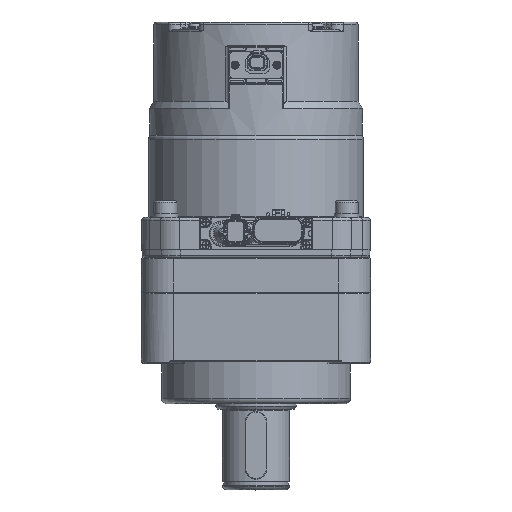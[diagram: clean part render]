
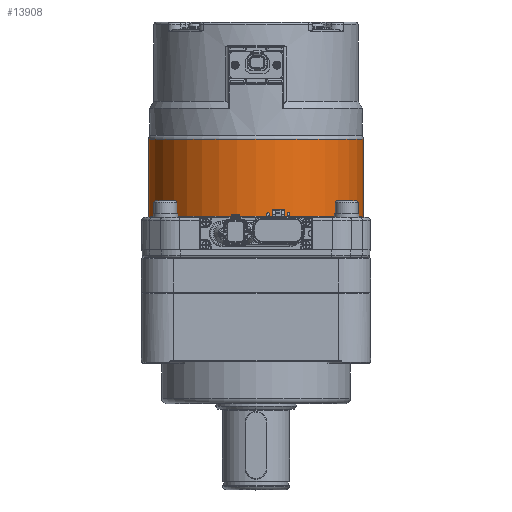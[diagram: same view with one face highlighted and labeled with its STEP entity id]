
A CAD part, top view. The second image highlights one B-rep face of the part: STEP entity #13908.
In plain terms, the highlighted cylindrical face has radius 39.9 mm (diameter 79.8 mm), a full revolution.
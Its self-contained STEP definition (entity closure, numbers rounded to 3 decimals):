
#12023=CYLINDRICAL_SURFACE('',#47709,39.9);
#13908=ADVANCED_FACE('',(#16251,#16252),#12023,.T.);
#16251=FACE_BOUND('',#17840,.T.);
#16252=FACE_BOUND('',#17841,.T.);
#17840=EDGE_LOOP('',(#25513));
#17841=EDGE_LOOP('',(#25514));
#19408=CIRCLE('',#46019,39.9);
#20242=CIRCLE('',#47690,39.9);
#25513=ORIENTED_EDGE('',*,*,#34545,.T.);
#25514=ORIENTED_EDGE('',*,*,#36516,.T.);
#31327=VERTEX_POINT('',#61064);
#32530=VERTEX_POINT('',#66459);
#34545=EDGE_CURVE('',#31327,#31327,#19408,.T.);
#36516=EDGE_CURVE('',#32530,#32530,#20242,.T.);
#46019=AXIS2_PLACEMENT_3D('',#61063,#50434,#50435);
#47690=AXIS2_PLACEMENT_3D('',#66458,#54742,#54743);
#47709=AXIS2_PLACEMENT_3D('',#66487,#54784,#54785);
#50434=DIRECTION('',(0.,-1.,0.));
#50435=DIRECTION('',(0.,0.,1.));
#54742=DIRECTION('',(0.,1.,0.));
#54743=DIRECTION('',(0.,0.,-1.));
#54784=DIRECTION('',(0.,1.,0.));
#54785=DIRECTION('',(0.,0.,-1.));
#61063=CARTESIAN_POINT('',(0.,83.,0.));
#61064=CARTESIAN_POINT('',(0.,83.,39.9));
#66458=CARTESIAN_POINT('',(0.,54.4,0.));
#66459=CARTESIAN_POINT('',(0.,54.4,-39.9));
#66487=CARTESIAN_POINT('',(0.,54.,0.));
